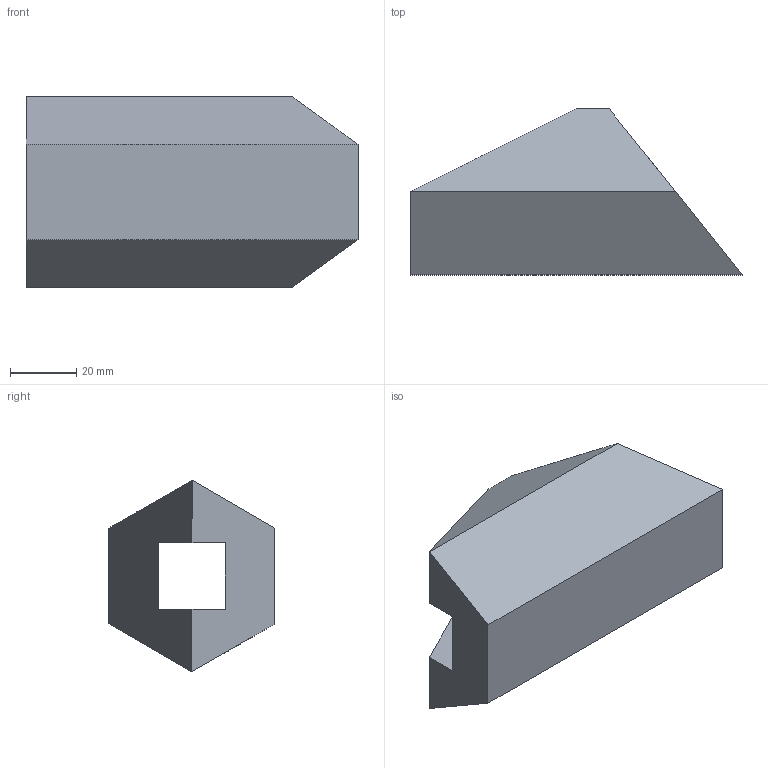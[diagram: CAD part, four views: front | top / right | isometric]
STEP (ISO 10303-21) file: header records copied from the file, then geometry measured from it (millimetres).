
FILE_DESCRIPTION(/* description */ (''),/* implementation_level */ '2;1');
FILE_NAME(/* time_stamp */ '2020-06-16T15:00:42+01:00',/* author */ ('DesignClass.co.uk'),/* originating_system */ 'Solidworks 2021',/* authorisation */ '');
FILE_SCHEMA (('AUTOMOTIVE_DESIGN { 1 0 10303 214 3 1 1 }'));
Length unit declared in the file: millimetre
Products named in the file (1): Task_6
Bounding box: 100 x 50 x 57.73 mm (x, y, z)
Volume: 119148.8 mm3; surface area: 21886 mm2
Topology: 1 solids, 1 shells, 13 faces, 34 edges, 22 vertices
Faces by surface type: plane 13
Entity records: 437 total; most frequent: CARTESIAN_POINT 70, ORIENTED_EDGE 68, DIRECTION 62, LINE 34, VECTOR 34, EDGE_CURVE 34, VERTEX_POINT 22, EDGE_LOOP 14
